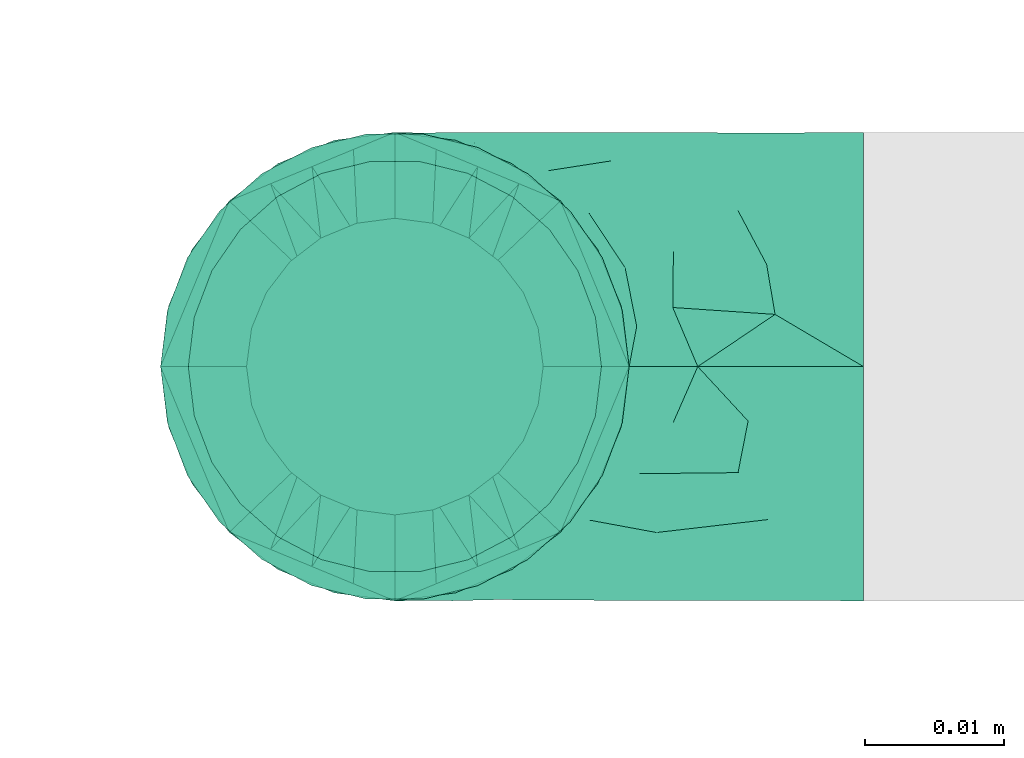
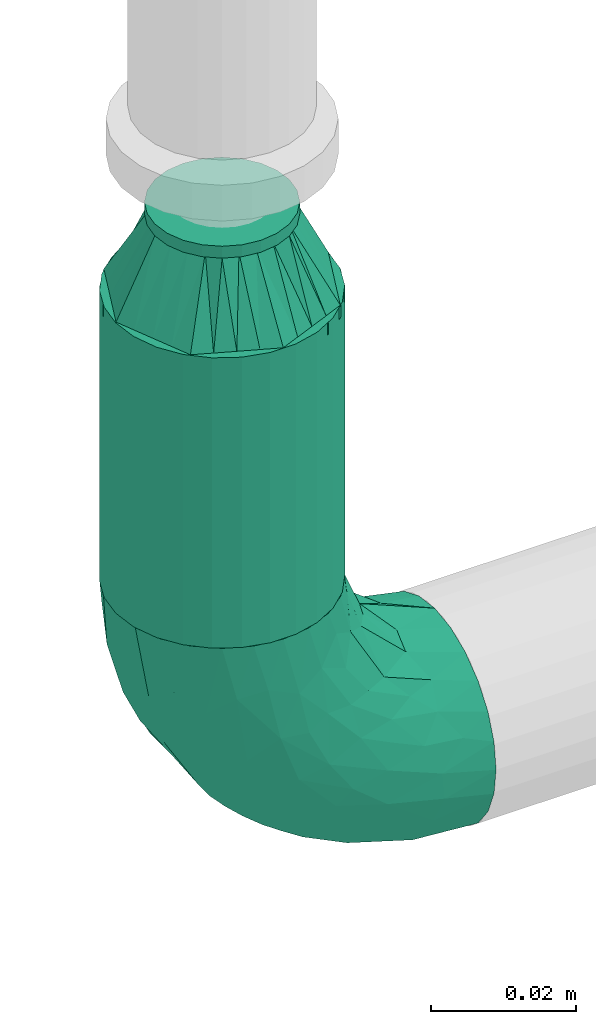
# One storey, part 57 of 157: 2 flow fittings, 1 flow segment.
"""IFC2X3 building model written with IfcOpenShell, lengths in millimetres."""

from ifc_helpers import new_model, entity, si_unit, converted_unit, derived_unit, direction, frame, origin_with_axes, origin_2d_with_axis, place, context, subcontext, project, spatial, hollow_circle, extrude, open_shell, surface_model, source, transform, mapped, type_object, element, save


model = new_model("IFC2X3")

# Units and contexts
model_context = context("Model", 3, precision=0.01, world=frame((0.0, 4.29681676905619e-09, 0.0)), true_north=direction((4.01073788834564e-13, 1.0)))
plan_context = context("Plan", 3, precision=0.01, world=frame((0.0, 4.29681676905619e-09, 0.0)), true_north=direction((4.01073788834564e-13, 1.0)))
body_context = subcontext(model_context, "Body", "Model", "MODEL_VIEW")
ifc_project = project(units=[converted_unit("PLANEANGLEUNIT", "DEGREE", entity("IfcPositiveLengthMeasure", 0.0174532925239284), si_unit("PLANEANGLEUNIT", "RADIAN"), dimensions=[0, 0, 0, 0, 0, 0, 0]), si_unit("AREAUNIT", "SQUARE_METRE"), si_unit("LENGTHUNIT", "METRE", prefix="MILLI"), si_unit("MASSUNIT", "GRAM", prefix="KILO"), si_unit("POWERUNIT", "WATT"), si_unit("PRESSUREUNIT", "PASCAL"), si_unit("FORCEUNIT", "NEWTON", prefix="KILO"), si_unit("ELECTRICCURRENTUNIT", "AMPERE"), si_unit("THERMODYNAMICTEMPERATUREUNIT", "DEGREE_CELSIUS"), si_unit("TIMEUNIT", "SECOND"), si_unit("VOLUMEUNIT", "CUBIC_METRE"), derived_unit("LINEARVELOCITYUNIT", [(si_unit("LENGTHUNIT", "METRE"), 1), (si_unit("TIMEUNIT", "SECOND"), -1)]), derived_unit("VOLUMETRICFLOWRATEUNIT", [(si_unit("VOLUMEUNIT", "CUBIC_METRE"), 1), (si_unit("TIMEUNIT", "SECOND"), -1)]), derived_unit("THERMALTRANSMITTANCEUNIT", [(si_unit("POWERUNIT", "WATT"), 1), (si_unit("THERMODYNAMICTEMPERATUREUNIT", "KELVIN"), -1), (si_unit("AREAUNIT", "SQUARE_METRE"), -1)])], contexts=[model_context, plan_context])

# Site, building, storey
site_placement = place(None, frame((0.0, -4.29681676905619e-09, 0.0), z_axis=(0.0, 0.0, 1.0), x_axis=(1.0, 0.0, 0.0)))
site = spatial("IfcSite", under=ifc_project, at=site_placement, CompositionType="ELEMENT")
building_placement = place(site_placement, frame((0.0, 4.29681676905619e-09, 0.0), z_axis=(0.0, 0.0, 1.0), x_axis=(1.0, 0.0, 0.0)))
building = spatial("IfcBuilding", under=site, at=building_placement, Name="mc-building", CompositionType="ELEMENT")
storey_placement = place(building_placement, frame((0.0, 0.0, 204000.0), z_axis=(0.0, 0.0, 1.0), x_axis=(1.0, 0.0, 0.0)))
storey = spatial("IfcBuildingStorey", under=building, at=storey_placement, Name="Nivå D", CompositionType="ELEMENT", Elevation=204000.0)

# Flow fittings
pipe_fitting_type_1 = type_object("IfcPipeFittingType", Name="magi_pipe_fe_reducer_centric_short_NOR", PredefinedType="TRANSITION")
shared_shape_1 = source(origin_with_axes(), body_context, "Body", "SurfaceModel", [
    surface_model("IfcShellBasedSurfaceModel", [(14.4, 5.35, -9.26647), (14.4, 0.0, -10.7), (14.4, 2.76936, -10.33541), (14.4, 10.33541, -2.76936), (14.4, 7.56604, -7.56604), (14.4, -10.33541, -2.76936), (14.4, 9.26647, -5.35), (14.4, 0.0, 10.7), (14.4, -5.35, -9.26647), (14.4, -2.76936, -10.33541), (14.4, -7.56604, -7.56604), (14.4, -9.26647, -5.35), (14.4, 10.7, 0.0), (14.4, 10.33541, 2.76936), (14.4, 9.26647, 5.35), (14.4, 7.56604, 7.56604), (14.4, 2.76936, 10.33541), (14.4, 5.35, 9.26647), (14.4, -10.33541, 2.76936), (14.4, -7.56604, 7.56604), (14.4, -9.26647, 5.35), (14.4, -10.7, 0.0), (14.4, -2.76936, 10.33541), (14.4, -5.35, 9.26647), (12.4, 2.76936, 10.33541), (12.4, -10.33541, -2.76936), (12.4, 0.0, 10.7), (12.4, 5.35, 9.26647), (12.4, 7.56604, 7.56604), (12.4, 9.26647, 5.35), (12.4, 10.33541, 2.76936), (12.4, -10.33541, 2.76936), (12.4, -2.76936, 10.33541), (12.4, -7.56604, 7.56604), (12.4, -5.35, 9.26647), (12.4, -9.26647, 5.35), (12.4, -10.7, 0.0), (12.4, 10.33541, -2.76936), (12.4, 5.35, -9.26647), (12.4, 9.26647, -5.35), (12.4, 7.56604, -7.56604), (12.4, 2.76936, -10.33541), (12.4, -9.26647, -5.35), (12.4, -5.35, -9.26647), (12.4, -7.56604, -7.56604), (12.4, 0.0, -10.7), (12.4, -2.76936, -10.33541), (12.4, 10.7, 0.0), (-2.0, 11.9501, 11.9501), (-2.0, 0.0, 16.9), (-2.0, 4.37404, 16.32415), (-2.0, 8.45, 14.63583), (-2.0, 14.63583, 8.45), (-2.0, 16.32415, 4.37404), (-2.0, -16.32415, 4.37404), (-2.0, -8.45, 14.63583), (-2.0, -14.63583, 8.45), (-2.0, -11.9501, 11.9501), (-2.0, -4.37404, 16.32415), (-2.0, -16.32415, -4.37404), (-2.0, -16.9, 0.0), (-2.0, -8.45, -14.63583), (-2.0, 16.32415, -4.37404), (-2.0, 11.9501, -11.9501), (-2.0, 14.63583, -8.45), (-2.0, 8.45, -14.63583), (-2.0, 4.37404, -16.32415), (-2.0, 0.0, -16.9), (-2.0, -11.9501, -11.9501), (-2.0, -14.63583, -8.45), (-2.0, -4.37404, -16.32415), (-2.0, 16.9, 0.0), (0.0, 4.37404, -16.32415), (0.0, 8.45, -14.63583), (0.0, 11.9501, -11.9501), (0.0, 0.0, -16.9), (0.0, 16.32415, -4.37404), (0.0, 16.32415, 4.37404), (0.0, 14.63583, -8.45), (0.0, -8.45, -14.63583), (0.0, -4.37404, -16.32415), (0.0, -11.9501, -11.9501), (0.0, -16.32415, -4.37404), (0.0, -14.63583, -8.45), (0.0, -16.32415, 4.37404), (0.0, 16.9, 0.0), (0.0, 14.63583, 8.45), (0.0, 11.9501, 11.9501), (0.0, 4.37404, 16.32415), (0.0, 8.45, 14.63583), (0.0, 0.0, 16.9), (0.0, -14.63583, 8.45), (0.0, -16.9, 0.0), (0.0, -8.45, 14.63583), (0.0, -11.9501, 11.9501), (0.0, -4.37404, 16.32415), (12.4, 9.3625, -2.31662), (0.0, 14.42505, -5.97505), (0.0, 15.66253, -2.98753), (12.4, -6.6875, -6.94985), (0.0, -13.18758, -8.96258), (0.0, 2.98753, -15.66253), (12.4, 0.0, -9.26647), (12.4, 6.6875, -6.94985), (0.0, 8.96258, -13.18758), (12.4, -9.3625, -2.31662), (0.0, -15.66253, -2.98753), (0.0, -14.42505, -5.97505), (0.0, 5.97505, -14.42505), (0.0, -2.98753, -15.66253), (0.0, -8.96258, -13.18758), (0.0, 13.18758, -8.96258), (12.4, 8.025, -4.63324), (12.4, -2.675, -9.26647), (12.4, 2.675, -9.26647), (0.0, -5.97505, -14.42505), (12.4, -8.025, -4.63324), (12.4, -9.3625, 2.31662), (0.0, -14.42505, 5.97505), (0.0, -15.66253, 2.98753), (12.4, 6.6875, 6.94985), (0.0, 13.18758, 8.96258), (0.0, -2.98753, 15.66253), (12.4, 0.0, 9.26647), (12.4, -6.6875, 6.94985), (0.0, -8.96258, 13.18758), (12.4, 9.3625, 2.31662), (0.0, 15.66253, 2.98753), (0.0, 14.42505, 5.97505), (0.0, -5.97505, 14.42505), (0.0, 2.98753, 15.66253), (0.0, 8.96258, 13.18758), (0.0, -13.18758, 8.96258), (12.4, -8.025, 4.63324), (12.4, 2.675, 9.26647), (12.4, -2.675, 9.26647), (0.0, 5.97505, 14.42505), (12.4, 8.025, 4.63324)], [open_shell([[[0, 1, 2]], [[3, 0, 4]], [[5, 0, 3]], [[3, 4, 6]], [[7, 5, 3]], [[1, 8, 9]], [[1, 0, 8]], [[10, 5, 11]], [[5, 10, 8]], [[0, 5, 8]], [[3, 12, 13]], [[13, 14, 15]], [[13, 15, 16]], [[7, 3, 16]], [[16, 15, 17]], [[7, 18, 5]], [[18, 19, 20]], [[21, 5, 18]], [[19, 22, 23]], [[22, 19, 18]], [[7, 22, 18]], [[13, 16, 3]], [[24, 25, 26]], [[27, 25, 24]], [[28, 29, 30]], [[28, 25, 27]], [[31, 26, 25]], [[32, 33, 34]], [[33, 32, 31]], [[33, 31, 35]], [[32, 26, 31]], [[31, 25, 36]], [[30, 37, 28]], [[25, 28, 37]], [[38, 37, 39]], [[37, 38, 25]], [[38, 39, 40]], [[41, 25, 38]], [[42, 43, 44]], [[43, 42, 25]], [[43, 45, 46]], [[43, 25, 41]], [[41, 45, 43]], [[37, 30, 47]], [[25, 5, 36]], [[42, 11, 25]], [[8, 44, 43]], [[42, 44, 10]], [[9, 43, 46]], [[25, 11, 5]], [[5, 21, 36]], [[9, 8, 43]], [[10, 44, 8]], [[10, 11, 42]], [[1, 9, 46]], [[46, 45, 1]], [[41, 2, 45]], [[38, 0, 41]], [[6, 40, 39]], [[38, 40, 4]], [[3, 39, 37]], [[38, 4, 0]], [[0, 2, 41]], [[12, 3, 37]], [[6, 39, 3]], [[6, 4, 40]], [[47, 12, 37]], [[45, 2, 1]], [[30, 13, 47]], [[29, 14, 30]], [[17, 28, 27]], [[29, 28, 15]], [[16, 27, 24]], [[30, 14, 13]], [[13, 12, 47]], [[16, 17, 27]], [[15, 28, 17]], [[15, 14, 29]], [[7, 16, 24]], [[24, 26, 7]], [[32, 22, 26]], [[34, 23, 32]], [[20, 33, 35]], [[34, 33, 19]], [[18, 35, 31]], [[34, 19, 23]], [[23, 22, 32]], [[21, 18, 31]], [[20, 35, 18]], [[20, 19, 33]], [[36, 21, 31]], [[26, 22, 7]], [[48, 49, 50]], [[48, 50, 51]], [[48, 52, 53]], [[48, 53, 49]], [[49, 53, 54]], [[55, 56, 57]], [[55, 58, 49]], [[56, 55, 49]], [[49, 54, 56]], [[54, 59, 60]], [[54, 53, 61]], [[53, 62, 63]], [[63, 62, 64]], [[63, 65, 66]], [[61, 53, 63]], [[67, 63, 66]], [[59, 68, 69]], [[68, 59, 61]], [[61, 67, 70]], [[59, 54, 61]], [[63, 67, 61]], [[53, 71, 62]], [[72, 73, 74]], [[75, 72, 74]], [[74, 76, 77]], [[76, 74, 78]], [[74, 77, 79]], [[75, 79, 80]], [[75, 74, 79]], [[81, 82, 83]], [[82, 81, 79]], [[79, 84, 82]], [[77, 76, 85]], [[77, 86, 87]], [[77, 87, 88]], [[88, 84, 79]], [[88, 87, 89]], [[84, 88, 90]], [[90, 91, 84]], [[92, 82, 84]], [[91, 93, 94]], [[91, 90, 93]], [[93, 90, 95]], [[79, 77, 88]], [[59, 82, 60]], [[69, 83, 59]], [[79, 68, 61]], [[69, 68, 81]], [[80, 61, 70]], [[59, 83, 82]], [[82, 92, 60]], [[80, 79, 61]], [[81, 68, 79]], [[81, 83, 69]], [[75, 80, 70]], [[70, 67, 75]], [[66, 72, 67]], [[65, 73, 66]], [[78, 63, 64]], [[65, 63, 74]], [[76, 64, 62]], [[65, 74, 73]], [[73, 72, 66]], [[85, 76, 62]], [[78, 64, 76]], [[78, 74, 63]], [[71, 85, 62]], [[67, 72, 75]], [[53, 77, 71]], [[52, 86, 53]], [[89, 48, 51]], [[52, 48, 87]], [[88, 51, 50]], [[53, 86, 77]], [[77, 85, 71]], [[88, 89, 51]], [[87, 48, 89]], [[87, 86, 52]], [[90, 88, 50]], [[50, 49, 90]], [[58, 95, 49]], [[55, 93, 58]], [[91, 57, 56]], [[55, 57, 94]], [[84, 56, 54]], [[55, 94, 93]], [[93, 95, 58]], [[92, 84, 54]], [[91, 56, 84]], [[91, 94, 57]], [[60, 92, 54]], [[49, 95, 90]], [[27, 34, 47]], [[47, 34, 43]], [[43, 38, 47]], [[43, 34, 36]], [[90, 87, 94]], [[92, 94, 87]], [[87, 74, 92]], [[75, 92, 74]], [[81, 92, 75]], [[74, 87, 85]], [[96, 97, 98]], [[81, 99, 100]], [[101, 102, 75]], [[98, 85, 47]], [[74, 103, 104]], [[104, 103, 38]], [[105, 106, 107]], [[38, 108, 104]], [[102, 109, 75]], [[110, 99, 81]], [[47, 96, 98]], [[103, 111, 112]], [[109, 102, 113]], [[36, 92, 106]], [[102, 101, 114]], [[110, 115, 43]], [[96, 112, 97]], [[107, 116, 105]], [[36, 106, 105]], [[113, 115, 109]], [[43, 115, 113]], [[116, 107, 100]], [[108, 38, 114]], [[111, 103, 74]], [[111, 97, 112]], [[99, 110, 43]], [[116, 100, 99]], [[101, 108, 114]], [[117, 118, 119]], [[87, 120, 121]], [[122, 123, 90]], [[119, 92, 36]], [[94, 124, 125]], [[125, 124, 34]], [[126, 127, 128]], [[34, 129, 125]], [[123, 130, 90]], [[131, 120, 87]], [[36, 117, 119]], [[124, 132, 133]], [[130, 123, 134]], [[47, 85, 127]], [[123, 122, 135]], [[131, 136, 27]], [[117, 133, 118]], [[128, 137, 126]], [[47, 127, 126]], [[134, 136, 130]], [[27, 136, 134]], [[137, 128, 121]], [[129, 34, 135]], [[132, 124, 94]], [[132, 118, 133]], [[120, 131, 27]], [[137, 121, 120]], [[122, 129, 135]]])]),
])
flow_fitting_1_placement = place(storey_placement, frame((521239.775, 410800.0, 2962.64799999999), z_axis=(0.0, -1.0, 0.0), x_axis=(0.0, 0.0, 1.0)))
element("IfcFlowFitting", 1, at=flow_fitting_1_placement, inside=storey, type_object=pipe_fitting_type_1, Name="magi_pipe_fe_reducer_centric_short_NOR", context=body_context, shape_type="MappedRepresentation", body=[
    mapped(shared_shape_1, transform((0.0, 0.0, 0.0), scale=1.0)),
])
pipe_fitting_type_2 = type_object("IfcPipeFittingType", Name="magi_pipe_fe_elbow_short_001", PredefinedType="BEND")
shared_shape_2 = source(origin_with_axes(), body_context, "Body", "SurfaceModel", [
    surface_model("IfcShellBasedSurfaceModel", [(-33.8, 8.45, -14.63583), (-33.8, 4.37404, -16.32415), (-33.8, 11.9501, -11.9501), (-33.8, -11.9501, -11.9501), (-33.8, -14.63583, -8.45), (-33.8, -8.45, -14.63583), (-33.8, 0.0, -16.9), (-33.8, -4.37404, -16.32415), (-33.8, -4.37404, 16.32415), (-33.8, 0.0, 16.9), (-33.8, -8.45, 14.63583), (-33.8, 16.32415, -4.37404), (-33.8, 14.63583, -8.45), (-33.8, -16.32415, -4.37404), (-33.8, -16.9, 0.0), (-33.8, -16.32415, 4.37404), (-33.8, 11.9501, 11.9501), (-33.8, 14.63583, 8.45), (-33.8, 16.32415, 4.37404), (-33.8, 4.37404, 16.32415), (-33.8, 8.45, 14.63583), (-33.8, -14.63583, 8.45), (-33.8, -11.9501, 11.9501), (-33.8, 16.9, 0.0), (-11.9501, 33.8, -11.9501), (0.0, 33.8, -16.9), (-4.37404, 33.8, -16.32415), (-8.45, 33.8, -14.63583), (-14.63583, 33.8, -8.45), (-16.32415, 33.8, -4.37404), (14.63583, 33.8, -8.45), (8.45, 33.8, 14.63583), (16.32415, 33.8, -4.37404), (8.45, 33.8, -14.63583), (11.9501, 33.8, -11.9501), (4.37404, 33.8, -16.32415), (16.32415, 33.8, 4.37404), (16.9, 33.8, 0.0), (-11.9501, 33.8, 11.9501), (-16.32415, 33.8, 4.37404), (-14.63583, 33.8, 8.45), (-8.45, 33.8, 14.63583), (-4.37404, 33.8, 16.32415), (11.9501, 33.8, 11.9501), (14.63583, 33.8, 8.45), (0.0, 33.8, 16.9), (4.37404, 33.8, 16.32415), (-16.9, 33.8, 0.0), (-24.79389, -13.12945, 9.48721), (-22.19287, -9.75018, 12.59315), (-24.09897, -14.97035, 0.0), (-14.93934, -10.76256, 8.5297), (-22.46095, -14.75051, 5.27077), (14.75051, 22.46094, 5.27077), (11.9251, 13.23888, 4.33236), (13.04069, 14.39795, 0.0), (7.71387, 13.68847, 11.55891), (9.75018, 22.19287, 12.59315), (4.10169, 13.0571, 14.04018), (-24.84007, -6.39063, 15.2048), (-25.81779, -2.23879, 16.61097), (-23.66549, 2.59054, 16.87119), (-26.50418, 14.06512, 11.08152), (-24.21253, 17.66365, 7.72657), (-29.58514, 15.86957, 7.00283), (-6.17382, -7.5455, 0.0), (-13.23888, -11.9251, 4.33236), (-14.39795, -13.04069, 0.0), (-17.81434, 18.87373, 11.97104), (-6.30846, 29.15138, 15.82987), (-2.31622, 25.28002, 16.85849), (-29.23923, 10.23435, 13.77053), (-1.45439, -2.85688, 7.61475), (-0.28326, 0.34872, 10.09509), (-5.74484, -4.04709, 10.4122), (-4.41137, 11.31918, 16.59407), (-8.39727, 3.10034, 15.7812), (-1.72649, 9.1306, 15.53089), (-17.39909, 24.75344, 7.64977), (-26.19233, 20.0512, 0.0), (-28.14518, 17.29657, 4.25857), (-26.05147, 6.6281, 15.96447), (-5.87354, 16.61944, 16.86968), (-12.51807, 12.51807, 16.48937), (-10.06312, 7.38516, 16.81295), (-3.01882, 3.01882, 13.81718), (-13.0571, -4.10169, 14.04018), (-16.82553, -0.15166, 16.38038), (10.76256, 14.93934, 8.5297), (13.12945, 24.79389, 9.48721), (6.39063, 24.84007, 15.2048), (2.23879, 25.81779, 16.61097), (-13.68847, -7.71387, 11.55891), (14.97035, 24.09897, 0.0), (-7.30894, 22.89991, 16.09489), (-10.67958, 26.17414, 14.008), (-12.78295, 18.26924, 15.06066), (-13.88562, 22.45231, 12.93244), (-18.04944, 15.16501, 14.04434), (-23.11658, 20.08178, 4.02986), (-21.84989, 21.84989, 0.0), (-18.55817, 25.48277, 3.93065), (-13.95142, 26.94732, 11.03289), (-18.57098, 7.23906, 16.59756), (-16.58335, 4.14122, 16.89279), (-17.96666, 11.46709, 15.63151), (-9.84453, 17.54304, 16.18938), (0.15166, 16.82553, 16.38038), (-23.27207, 11.47201, 14.23154), (3.84842, 5.86994, 10.70473), (-8.0212, -7.54413, 7.93275), (1.00345, -2.19508, 4.57414), (5.13203, 3.01004, 5.90201), (5.24161, 1.7543, 2.53265), (8.70457, 7.04947, 3.99182), (-20.0512, 26.19233, 0.0), (8.4852, 8.76699, 7.09296), (-4.55488, -6.72064, 4.90681), (2.05031, -2.05031, 0.0), (7.5455, 6.17382, 0.0), (-26.75399, 2.1369, -16.845), (-14.61995, 24.73803, -11.27736), (-28.45274, -13.45335, -9.81895), (-26.00469, 6.63555, -15.96645), (-23.06726, 20.04573, -4.26202), (-13.80647, -4.26506, -14.17873), (-14.67501, -0.21081, -16.07388), (-6.7902, -0.2828, -13.8478), (-24.53586, 11.08096, -14.13417), (-26.72048, 14.00837, -11.05776), (10.0967, 24.44989, -12.75976), (5.83237, 21.40218, -15.03047), (6.66249, 28.54238, -15.38093), (-20.38182, 15.48705, -12.74596), (12.53268, 21.23441, -9.15363), (12.54494, 15.67504, -5.54878), (9.7522, 12.89279, -8.66343), (-15.65186, 19.64213, -13.01327), (-12.03528, 20.66498, -14.67665), (-15.61907, 15.61906, -14.83879), (-25.56551, -15.26206, 0.0), (-24.65452, -15.12934, -5.50955), (13.45335, 28.45274, -9.81895), (15.12934, 24.65452, -5.50955), (-7.35442, -8.31014, -5.65563), (-15.67504, -12.54494, -5.54878), (-24.44989, -10.0967, -12.75976), (0.16522, 0.41303, -9.71728), (-5.70658, -5.33066, -8.89288), (-5.13869, -2.37198, -11.53565), (-21.23441, -12.53268, -9.15363), (0.71146, 7.93863, -14.09382), (0.21081, 14.67501, -16.07388), (3.49291, 14.42772, -14.76381), (-24.89911, -2.13088, -16.591), (-28.54238, -6.66249, -15.38093), (-18.44386, -7.71663, -13.26957), (2.13088, 24.89911, -16.591), (-28.64342, 17.44413, -2.89318), (1.70017, -1.28722, -5.09504), (-16.57067, 26.81947, -7.36596), (-17.69055, 27.4263, -3.76405), (-12.89279, -9.7522, -8.66343), (-5.96611, 5.96611, -15.95814), (-20.53709, 20.09345, -8.28985), (-2.1369, 26.75399, -16.845), (-6.89872, 24.58781, -16.02578), (-10.60739, 26.53157, -13.98044), (-21.40218, -5.83237, -15.03047), (2.93192, 5.89627, -11.55917), (6.89393, 12.61842, -11.82233), (5.58056, 5.95325, -8.79455), (-3.99512, 18.61798, -16.89635), (8.31014, 7.35442, -5.65563), (-9.1383, 9.86148, -16.89041), (-9.99983, 16.02119, -16.39699), (-16.68576, 9.78031, -16.34199), (-27.01915, 16.61158, -7.12979), (15.26206, 25.56551, 0.0), (-18.61798, 3.99512, -16.89635), (-19.37495, 27.82495, 0.0), (-12.61842, -6.89393, -11.82233), (-18.84705, 19.14018, -10.96545)], [open_shell([[[0, 1, 2]], [[3, 4, 5]], [[6, 7, 5]], [[8, 9, 10]], [[1, 6, 2]], [[11, 12, 2]], [[4, 2, 6]], [[2, 13, 10]], [[5, 4, 6]], [[2, 4, 13]], [[14, 15, 13]], [[11, 2, 16]], [[11, 17, 18]], [[11, 16, 17]], [[19, 20, 16]], [[16, 2, 10]], [[19, 16, 10]], [[21, 22, 15]], [[22, 13, 15]], [[22, 10, 13]], [[10, 9, 19]], [[11, 18, 23]], [[24, 25, 26]], [[24, 26, 27]], [[24, 28, 29]], [[25, 24, 30]], [[31, 32, 24]], [[33, 30, 34]], [[33, 35, 25]], [[25, 30, 33]], [[32, 30, 24]], [[32, 36, 37]], [[38, 24, 29]], [[39, 40, 29]], [[40, 38, 29]], [[38, 41, 42]], [[38, 31, 24]], [[31, 38, 42]], [[36, 43, 44]], [[36, 32, 43]], [[31, 45, 46]], [[32, 31, 43]], [[42, 45, 31]], [[39, 29, 47]], [[22, 48, 49]], [[15, 14, 50]], [[51, 48, 52]], [[53, 54, 55]], [[48, 22, 21]], [[15, 52, 21]], [[56, 57, 58]], [[49, 10, 22]], [[49, 59, 10]], [[9, 60, 61]], [[62, 63, 64]], [[65, 66, 67]], [[57, 43, 31]], [[62, 68, 63]], [[42, 69, 70]], [[20, 71, 16]], [[8, 60, 9]], [[72, 73, 74]], [[75, 76, 77]], [[16, 62, 17]], [[40, 39, 78]], [[79, 23, 80]], [[64, 18, 17]], [[9, 61, 19]], [[19, 81, 20]], [[82, 83, 84]], [[74, 85, 86]], [[59, 86, 87]], [[88, 89, 57]], [[90, 31, 46]], [[44, 53, 36]], [[46, 45, 91]], [[54, 53, 88]], [[44, 89, 53]], [[92, 86, 49]], [[89, 44, 43]], [[10, 59, 8]], [[53, 55, 93]], [[93, 36, 53]], [[66, 52, 67]], [[94, 82, 70]], [[95, 96, 94]], [[97, 98, 96]], [[79, 99, 100]], [[41, 38, 95]], [[101, 100, 99]], [[68, 78, 63]], [[42, 41, 69]], [[23, 18, 80]], [[95, 94, 69]], [[78, 101, 99]], [[38, 102, 95]], [[70, 45, 42]], [[97, 95, 102]], [[15, 50, 52]], [[90, 57, 31]], [[57, 90, 58]], [[81, 19, 61]], [[103, 104, 84]], [[105, 81, 103]], [[38, 40, 102]], [[106, 96, 83]], [[94, 106, 82]], [[91, 70, 107]], [[71, 62, 16]], [[62, 108, 98]], [[86, 59, 49]], [[67, 52, 50]], [[60, 59, 87]], [[92, 49, 51]], [[86, 85, 76]], [[91, 90, 46]], [[37, 36, 93]], [[107, 77, 58]], [[107, 58, 90]], [[58, 85, 109]], [[110, 74, 92]], [[72, 74, 110]], [[66, 51, 52]], [[72, 111, 112]], [[113, 114, 112]], [[56, 88, 57]], [[52, 48, 21]], [[49, 48, 51]], [[57, 89, 43]], [[53, 89, 88]], [[103, 81, 61]], [[71, 81, 108]], [[18, 64, 80]], [[63, 78, 99]], [[47, 115, 101]], [[101, 115, 100]], [[40, 78, 102]], [[68, 102, 78]], [[97, 96, 95]], [[105, 98, 108]], [[103, 84, 83]], [[107, 70, 82]], [[76, 84, 87]], [[82, 84, 75]], [[70, 91, 45]], [[90, 91, 107]], [[59, 60, 8]], [[61, 60, 87]], [[73, 85, 74]], [[109, 112, 116]], [[103, 61, 104]], [[105, 103, 83]], [[96, 105, 83]], [[81, 105, 108]], [[96, 98, 105]], [[62, 98, 68]], [[61, 87, 104]], [[87, 84, 104]], [[86, 76, 87]], [[77, 76, 85]], [[58, 77, 85]], [[75, 77, 107]], [[82, 75, 107]], [[76, 75, 84]], [[81, 71, 20]], [[62, 71, 108]], [[95, 69, 41]], [[70, 69, 94]], [[62, 64, 17]], [[80, 63, 99]], [[63, 80, 64]], [[80, 99, 79]], [[66, 65, 117]], [[110, 66, 117]], [[112, 114, 116]], [[118, 117, 65]], [[110, 92, 51]], [[112, 111, 113]], [[119, 55, 54]], [[74, 86, 92]], [[58, 109, 56]], [[116, 56, 109]], [[66, 110, 51]], [[72, 110, 117]], [[111, 72, 117]], [[73, 112, 109]], [[117, 118, 111]], [[113, 111, 118]], [[118, 119, 113]], [[114, 119, 54]], [[119, 114, 113]], [[116, 54, 88]], [[54, 116, 114]], [[116, 88, 56]], [[112, 73, 72]], [[85, 73, 109]], [[78, 39, 101]], [[47, 101, 39]], [[102, 68, 97]], [[97, 68, 98]], [[82, 106, 83]], [[94, 96, 106]], [[1, 120, 6]], [[28, 24, 121]], [[3, 122, 4]], [[0, 123, 1]], [[100, 124, 79]], [[125, 126, 127]], [[128, 2, 129]], [[130, 131, 132]], [[128, 129, 133]], [[134, 135, 136]], [[137, 138, 139]], [[128, 0, 2]], [[67, 140, 141]], [[134, 142, 143]], [[141, 13, 4]], [[144, 65, 145]], [[146, 3, 5]], [[147, 148, 149]], [[145, 141, 150]], [[151, 152, 153]], [[154, 7, 6]], [[5, 155, 146]], [[150, 146, 156]], [[155, 5, 7]], [[143, 135, 134]], [[35, 157, 25]], [[23, 79, 158]], [[148, 159, 144]], [[160, 161, 29]], [[145, 162, 144]], [[163, 152, 151]], [[29, 28, 160]], [[121, 164, 160]], [[33, 34, 130]], [[25, 165, 26]], [[26, 165, 166]], [[142, 34, 30]], [[24, 27, 167]], [[124, 161, 164]], [[157, 35, 132]], [[155, 154, 168]], [[123, 0, 128]], [[169, 170, 171]], [[172, 157, 152]], [[26, 166, 27]], [[132, 35, 33]], [[142, 130, 34]], [[168, 154, 126]], [[136, 135, 173]], [[133, 137, 139]], [[2, 12, 129]], [[170, 131, 130]], [[30, 32, 143]], [[172, 174, 175]], [[176, 123, 128]], [[158, 177, 11]], [[135, 55, 119]], [[167, 27, 166]], [[175, 166, 172]], [[137, 167, 138]], [[122, 141, 4]], [[140, 14, 13]], [[32, 37, 178]], [[170, 130, 134]], [[152, 157, 131]], [[165, 157, 172]], [[153, 170, 151]], [[152, 163, 174]], [[168, 125, 156]], [[122, 146, 150]], [[120, 154, 6]], [[179, 174, 126]], [[179, 126, 154]], [[126, 163, 127]], [[162, 145, 150]], [[140, 13, 141]], [[32, 178, 143]], [[55, 143, 178]], [[177, 129, 12]], [[128, 133, 139]], [[176, 128, 139]], [[120, 123, 179]], [[121, 160, 28]], [[161, 100, 180]], [[166, 175, 138]], [[121, 24, 167]], [[161, 47, 29]], [[79, 124, 158]], [[124, 164, 177]], [[161, 124, 100]], [[136, 171, 170]], [[127, 163, 151]], [[147, 171, 159]], [[148, 144, 162]], [[127, 151, 169]], [[127, 181, 125]], [[129, 177, 164]], [[12, 11, 177]], [[159, 65, 144]], [[67, 141, 145]], [[143, 55, 135]], [[135, 119, 173]], [[123, 120, 1]], [[154, 120, 179]], [[157, 165, 25]], [[166, 165, 172]], [[172, 152, 174]], [[176, 139, 175]], [[126, 174, 163]], [[176, 174, 179]], [[174, 176, 175]], [[123, 176, 179]], [[150, 181, 162]], [[127, 149, 181]], [[181, 148, 162]], [[159, 148, 147]], [[171, 136, 173]], [[170, 134, 136]], [[159, 171, 173]], [[171, 147, 169]], [[169, 147, 149]], [[151, 170, 169]], [[164, 182, 129]], [[182, 121, 137]], [[181, 149, 148]], [[169, 149, 127]], [[182, 137, 133]], [[167, 137, 121]], [[166, 138, 167]], [[175, 139, 138]], [[129, 182, 133]], [[121, 182, 164]], [[161, 160, 164]], [[47, 161, 180]], [[177, 158, 124]], [[23, 158, 11]], [[130, 132, 33]], [[157, 132, 131]], [[143, 142, 30]], [[130, 142, 134]], [[154, 155, 7]], [[146, 155, 168]], [[146, 122, 3]], [[141, 122, 150]], [[152, 131, 153]], [[159, 119, 118]], [[67, 145, 65]], [[170, 153, 131]], [[119, 159, 173]], [[159, 118, 65]], [[156, 125, 181]], [[126, 125, 168]], [[150, 156, 181]], [[168, 156, 146]]])]),
])
flow_fitting_2_placement = place(storey_placement, frame((521239.775, 410800.0, 2880.0), z_axis=(0.0, -1.0, 0.0), x_axis=(0.0, 0.0, -1.0)))
element("IfcFlowFitting", 2, at=flow_fitting_2_placement, inside=storey, type_object=pipe_fitting_type_2, Name="magi_pipe_fe_elbow_short_001", context=body_context, shape_type="MappedRepresentation", body=[
    mapped(shared_shape_2, transform((0.0, 0.0, 0.0), scale=1.0)),
])

# Flow segment
pipe_segment_type = type_object("IfcPipeSegmentType", Name="Stålrør normaltykke", PredefinedType="RIGIDSEGMENT")
shared_shape_3 = source(origin_with_axes(), body_context, "Body", "SweptSolid", [
    extrude(hollow_circle(Radius=16.9, WallThickness=2.0, at=origin_2d_with_axis()), frame((0.0, 0.0, 0.0), z_axis=(1.0, 0.0, 0.0), x_axis=(0.0, 1.0, 0.0)), (0.0, 0.0, 1.0), 48.8),
])
flow_segment_placement = place(storey_placement, frame((521239.775, 410800.0, 2913.79999999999), z_axis=(0.0, 1.0, 0.0), x_axis=(0.0, 0.0, 1.0)))
element("IfcFlowSegment", 3, at=flow_segment_placement, inside=storey, type_object=pipe_segment_type, Name="Stålrør normaltykke", context=body_context, shape_type="MappedRepresentation", body=[
    mapped(shared_shape_3, transform((0.0, 0.0, 0.0), scale=1.0, scale2=1.0, scale3=1.0, uniform=False)),
])

save(model, "model.ifc")
